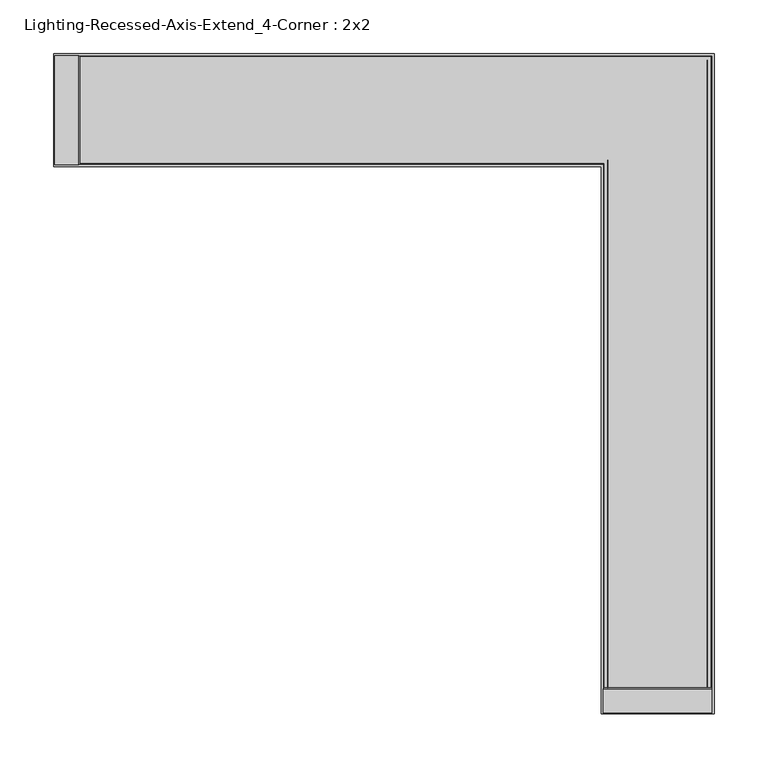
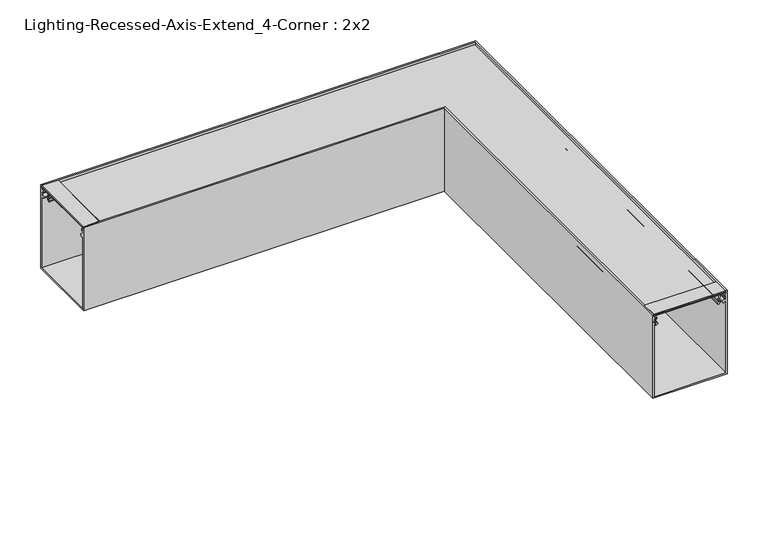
"""IFC4 building model written with IfcOpenShell, lengths in millimetres: light fixture geometry, Lighting-Recessed-Axis-Extend_4-Corner : 2x2."""

from ifc_helpers import new_model, si_unit, frame, origin, place, context, project, spatial, polyline, circle_curve, ellipse_curve, outline, extrude, source, transform, mapped, element, save
from ifc_brep_helpers import plane_surface, cylinder_surface, revolved_surface, advanced_brep


def lighting_recessed_axis_extend_4_corner_2x2_46e1a410(model_context):
    return source(origin(), model_context, "Body", "SolidModel", [
        extrude(outline(polyline([(-539.55569, -1.1017139), (-539.55569, -2.57175), (-540.34944, -2.57175), (-540.34944, -1.778), (-546.82009, -1.778), (-546.82009, -4.5842019), (-556.49749, -4.5842019), (-556.49749, -1.778), (-562.96814, -1.778), (-562.96814, -2.57175), (-563.76189, -2.57175), (-563.76189, -1.1017139), (-562.8373463, 0.0), (-540.4802337, 0.0), (-539.55569, -1.1017139)])), frame((-50.75301, 0.0, 0.0), z_axis=(1.0, 0.0, 0.0), x_axis=(0.0, 1.0, 0.0)), (0.0, 0.0, 1.0), 101.50602),
        extrude(outline(polyline([(-1.1017139, -539.09849), (0.0, -540.0230337), (0.0, -562.3801463), (-1.1017139, -563.30469), (-2.57175, -563.30469), (-2.57175, -562.51094), (-1.778, -562.51094), (-1.778, -556.04029), (-4.5842019, -556.04029), (-4.5842019, -546.36289), (-1.778, -546.36289), (-1.778, -539.89224), (-2.57175, -539.89224), (-2.57175, -539.09849), (-1.1017139, -539.09849)])), frame((0.0, -50.75301, 0.0), z_axis=(0.0, 1.0, 0.0), x_axis=(0.0, 0.0, 1.0)), (0.0, 0.0, 1.0), 101.50602),
        advanced_brep(
        [(-556.81499, -44.9537362, -4.8895009), (-556.81499, -45.2924281, -11.3521263), (-556.81499, -46.1628914, -17.9580097), (-556.81499, -45.3476056, -19.4557425), (-556.81499, -43.9929166, -20.6551445), (-556.81499, -44.973818, -21.9831631), (-556.81499, -46.5470052, -20.5903092), (-556.81499, -47.8918907, -16.75974), (-556.81499, -46.2564041, -12.7205342), (-556.81499, -46.9204959, -10.8713211), (-556.81499, -46.607002, -4.8895009), (-556.81499, -49.61001, -4.8895009), (-556.81499, -49.61001, -2.9845), (-556.81499, 49.61001, -2.9845), (-556.81499, 49.61001, -4.8895009), (-556.81499, 46.607002, -4.8895009), (-556.81499, 46.9204959, -10.8713211), (-556.81499, 46.2564041, -12.7205342), (-556.81499, 47.8918907, -16.75974), (-556.81499, 46.5470052, -20.5903092), (-556.81499, 44.973818, -21.9831631), (-556.81499, 43.9929166, -20.6551445), (-556.81499, 45.3476056, -19.4557425), (-556.81499, 46.1628914, -17.9580097), (-556.81499, 45.2924281, -11.3521263), (-556.81499, 44.9537362, -4.8895009), (-44.9537362, -556.81499, -4.8895009), (44.9537362, -556.81499, -4.8895009), (45.2924281, -556.81499, -11.3521263), (46.1628914, -556.81499, -17.9580097), (45.3476056, -556.81499, -19.4557425), (43.9929166, -556.81499, -20.6551445), (44.973818, -556.81499, -21.9831631), (46.5470052, -556.81499, -20.5903092), (47.8918907, -556.81499, -16.75974), (46.2564041, -556.81499, -12.7205342), (46.9204959, -556.81499, -10.8713211), (46.607002, -556.81499, -4.8895009), (49.61001, -556.81499, -4.8895009), (49.61001, -556.81499, -2.9845), (-49.61001, -556.81499, -2.9845), (-49.61001, -556.81499, -4.8895009), (-46.607002, -556.81499, -4.8895009), (-46.9204959, -556.81499, -10.8713211), (-46.2564041, -556.81499, -12.7205342), (-47.8918907, -556.81499, -16.75974), (-46.5470052, -556.81499, -20.5903092), (-44.973818, -556.81499, -21.9831631), (-43.9929166, -556.81499, -20.6551445), (-45.3476056, -556.81499, -19.4557425), (-46.1628914, -556.81499, -17.9580097), (-45.2924281, -556.81499, -11.3521263), (-44.9537362, -44.9537362, -4.8895009), (-45.2924281, -45.2924281, -11.3521263), (-46.1628914, -46.1628914, -17.9580097), (-45.3476056, -45.3476056, -19.4557425), (-43.9929166, -43.9929166, -20.6551445), (-44.973818, -44.973818, -21.9831631), (-46.5470052, -46.5470052, -20.5903092), (-47.8918907, -47.8918907, -16.75974), (-46.2564041, -46.2564041, -12.7205342), (-46.9204959, -46.9204959, -10.8713211), (-46.607002, -46.607002, -4.8895009), (-49.61001, -49.61001, -4.8895009), (-49.61001, -49.61001, -2.9845), (49.61001, 49.61001, -2.9845), (44.9537362, 44.9537362, -4.8895009), (49.61001, 49.61001, -4.8895009), (46.607002, 46.607002, -4.8895009), (46.9204959, 46.9204959, -10.8713211), (46.2564041, 46.2564041, -12.7205342), (47.8918907, 47.8918907, -16.75974), (46.5470052, 46.5470052, -20.5903092), (44.973818, 44.973818, -21.9831631), (43.9929166, 43.9929166, -20.6551445), (45.3476056, 45.3476056, -19.4557425), (46.1628914, 46.1628914, -17.9580097), (45.2924281, 45.2924281, -11.3521263)],
        [
            (0, 1),
            (1, 2, circle_curve(frame((-556.81499, -48.03521, -14.351), z_axis=(-1.0, 0.0, 0.0), x_axis=(0.0, 0.6748971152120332, 0.7379118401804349)), 4.064)),
            (2, 3, circle_curve(frame((-556.81499, -42.930354, -17.1691543), z_axis=(1.0, 0.0, 0.0), x_axis=(0.0, -0.9714904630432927, -0.23707863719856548)), 3.3274001)),
            (3, 4, circle_curve(frame((-556.81499, -37.9113277, -12.4214292), z_axis=(1.0, 0.0, 0.0), x_axis=(0.0, -0.7264901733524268, -0.68717685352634)), 10.2362001)),
            (4, 5, circle_curve(frame((-556.81499, -44.4833673, -21.3191538), z_axis=(-1.0, 0.0, 0.0), x_axis=(0.0, 0.5941256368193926, 0.8043722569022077)), 0.8255)),
            (5, 6, circle_curve(frame((-556.81499, -37.9113269, -12.4214283), z_axis=(-1.0, 0.0, 0.0), x_axis=(0.0, -0.594125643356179, -0.8043722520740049)), 11.8872013)),
            (6, 7, circle_curve(frame((-556.81499, -42.930354, -17.1691543), z_axis=(-1.0, 0.0, 0.0), x_axis=(0.0, -0.7264685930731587, -0.6871996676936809)), 4.9784001)),
            (7, 8, circle_curve(frame((-556.81499, -48.03521, -14.351), z_axis=(1.0, 0.0, 0.0), x_axis=(0.0, 0.05939464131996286, -0.9982345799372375)), 2.413)),
            (8, 9, circle_curve(frame((-556.81499, -44.3839769, -11.0042544), z_axis=(-1.0, 0.0, 0.0), x_axis=(0.0, -0.7371760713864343, -0.675700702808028)), 2.54)),
            (9, 10),
            (10, 11),
            (11, 12),
            (12, 13),
            (13, 14),
            (14, 15),
            (15, 16),
            (16, 17, circle_curve(frame((-556.81499, 44.3839769, -11.0042544), z_axis=(-1.0, 0.0, 0.0), x_axis=(0.0, 0.7371760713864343, -0.675700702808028)), 2.54)),
            (17, 18, circle_curve(frame((-556.81499, 48.03521, -14.351), z_axis=(1.0, 0.0, 0.0), x_axis=(0.0, -0.05939464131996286, -0.9982345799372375)), 2.413)),
            (18, 19, circle_curve(frame((-556.81499, 42.930354, -17.1691543), z_axis=(-1.0, 0.0, 0.0), x_axis=(0.0, 0.7264685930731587, -0.6871996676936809)), 4.9784001)),
            (19, 20, circle_curve(frame((-556.81499, 37.9113269, -12.4214283), z_axis=(-1.0, 0.0, 0.0), x_axis=(0.0, 0.594125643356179, -0.8043722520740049)), 11.8872013)),
            (20, 21, circle_curve(frame((-556.81499, 44.4833673, -21.3191538), z_axis=(-1.0, 0.0, 0.0), x_axis=(0.0, -0.5941256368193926, 0.8043722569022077)), 0.8255)),
            (21, 22, circle_curve(frame((-556.81499, 37.9113277, -12.4214292), z_axis=(1.0, 0.0, 0.0), x_axis=(0.0, 0.7264901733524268, -0.68717685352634)), 10.2362001)),
            (22, 23, circle_curve(frame((-556.81499, 42.930354, -17.1691543), z_axis=(1.0, 0.0, 0.0), x_axis=(0.0, 0.9714904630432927, -0.23707863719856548)), 3.3274001)),
            (23, 24, circle_curve(frame((-556.81499, 48.03521, -14.351), z_axis=(-1.0, 0.0, 0.0), x_axis=(0.0, -0.6748971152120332, 0.7379118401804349)), 4.064)),
            (24, 25),
            (25, 0),
            (26, 27),
            (27, 28),
            (28, 29, circle_curve(frame((48.03521, -556.81499, -14.351), z_axis=(0.0, -1.0, 0.0), x_axis=(-0.6748971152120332, 0.0, 0.7379118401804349)), 4.064)),
            (29, 30, circle_curve(frame((42.930354, -556.81499, -17.1691543), z_axis=(0.0, 1.0, 0.0), x_axis=(0.9714904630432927, 0.0, -0.23707863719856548)), 3.3274001)),
            (30, 31, circle_curve(frame((37.9113277, -556.81499, -12.4214292), z_axis=(0.0, 1.0, 0.0), x_axis=(0.7264901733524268, 0.0, -0.68717685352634)), 10.2362001)),
            (31, 32, circle_curve(frame((44.4833673, -556.81499, -21.3191538), z_axis=(0.0, -1.0, 0.0), x_axis=(-0.5941256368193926, 0.0, 0.8043722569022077)), 0.8255)),
            (32, 33, circle_curve(frame((37.9113269, -556.81499, -12.4214283), z_axis=(0.0, -1.0, 0.0), x_axis=(0.594125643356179, 0.0, -0.8043722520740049)), 11.8872013)),
            (33, 34, circle_curve(frame((42.930354, -556.81499, -17.1691543), z_axis=(0.0, -1.0, 0.0), x_axis=(0.7264685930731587, 0.0, -0.6871996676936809)), 4.9784001)),
            (34, 35, circle_curve(frame((48.03521, -556.81499, -14.351), z_axis=(0.0, 1.0, 0.0), x_axis=(-0.05939464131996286, 0.0, -0.9982345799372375)), 2.413)),
            (35, 36, circle_curve(frame((44.3839769, -556.81499, -11.0042544), z_axis=(0.0, -1.0, 0.0), x_axis=(0.7371760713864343, 0.0, -0.675700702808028)), 2.54)),
            (36, 37),
            (37, 38),
            (38, 39),
            (39, 40),
            (40, 41),
            (41, 42),
            (42, 43),
            (43, 44, circle_curve(frame((-44.3839769, -556.81499, -11.0042544), z_axis=(0.0, -1.0, 0.0), x_axis=(-0.7371760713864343, 0.0, -0.675700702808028)), 2.54)),
            (44, 45, circle_curve(frame((-48.03521, -556.81499, -14.351), z_axis=(0.0, 1.0, 0.0), x_axis=(0.05939464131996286, 0.0, -0.9982345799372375)), 2.413)),
            (45, 46, circle_curve(frame((-42.930354, -556.81499, -17.1691543), z_axis=(0.0, -1.0, 0.0), x_axis=(-0.7264685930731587, 0.0, -0.6871996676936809)), 4.9784001)),
            (46, 47, circle_curve(frame((-37.9113269, -556.81499, -12.4214283), z_axis=(0.0, -1.0, 0.0), x_axis=(-0.594125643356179, 0.0, -0.8043722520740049)), 11.8872013)),
            (47, 48, circle_curve(frame((-44.4833673, -556.81499, -21.3191538), z_axis=(0.0, -1.0, 0.0), x_axis=(0.5941256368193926, 0.0, 0.8043722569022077)), 0.8255)),
            (48, 49, circle_curve(frame((-37.9113277, -556.81499, -12.4214292), z_axis=(0.0, 1.0, 0.0), x_axis=(-0.7264901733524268, 0.0, -0.68717685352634)), 10.2362001)),
            (49, 50, circle_curve(frame((-42.930354, -556.81499, -17.1691543), z_axis=(0.0, 1.0, 0.0), x_axis=(-0.9714904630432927, 0.0, -0.23707863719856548)), 3.3274001)),
            (50, 51, circle_curve(frame((-48.03521, -556.81499, -14.351), z_axis=(0.0, -1.0, 0.0), x_axis=(0.6748971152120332, 0.0, 0.7379118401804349)), 4.064)),
            (51, 26),
            (0, 52),
            (52, 53),
            (53, 1),
            (53, 54, ellipse_curve(frame((-48.03521, -48.03521, -14.351), z_axis=(-0.7071067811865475, 0.7071067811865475, 0.0), x_axis=(-0.7071067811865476, -0.7071067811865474, 0.0)), 5.7473639, 4.064)),
            (54, 2),
            (54, 55, ellipse_curve(frame((-42.930354, -42.930354, -17.1691543), z_axis=(0.7071067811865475, -0.7071067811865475, 0.0), x_axis=(0.7071067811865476, 0.7071067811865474, 0.0)), 4.7056543, 3.3274001)),
            (55, 3),
            (55, 56, ellipse_curve(frame((-37.9113277, -37.9113277, -12.4214292), z_axis=(0.7071067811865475, -0.7071067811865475, 0.0), x_axis=(0.7071067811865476, 0.7071067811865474, 0.0)), 14.476173, 10.2362001)),
            (56, 4),
            (56, 57, ellipse_curve(frame((-44.4833673, -44.4833673, -21.3191538), z_axis=(-0.7071067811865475, 0.7071067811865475, 0.0), x_axis=(-0.7071067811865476, -0.7071067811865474, 0.0)), 1.1674333, 0.8255)),
            (57, 5),
            (57, 58, ellipse_curve(frame((-37.9113269, -37.9113269, -12.4214283), z_axis=(-0.7071067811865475, 0.7071067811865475, 0.0), x_axis=(-0.7071067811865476, -0.7071067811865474, 0.0)), 16.8110412, 11.8872013)),
            (58, 6),
            (58, 59, ellipse_curve(frame((-42.930354, -42.930354, -17.1691543), z_axis=(-0.7071067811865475, 0.7071067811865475, 0.0), x_axis=(-0.7071067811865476, -0.7071067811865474, 0.0)), 7.0405209, 4.9784001)),
            (59, 7),
            (59, 60, ellipse_curve(frame((-48.03521, -48.03521, -14.351), z_axis=(0.7071067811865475, -0.7071067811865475, 0.0), x_axis=(0.7071067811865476, 0.7071067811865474, 0.0)), 3.4124973, 2.413)),
            (60, 8),
            (60, 61, ellipse_curve(frame((-44.3839769, -44.3839769, -11.0042544), z_axis=(-0.7071067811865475, 0.7071067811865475, 0.0), x_axis=(-0.7071067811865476, -0.7071067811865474, 0.0)), 3.5921024, 2.54)),
            (61, 9),
            (61, 62),
            (62, 10),
            (62, 42),
            (41, 63),
            (63, 11),
            (63, 64),
            (64, 12),
            (64, 40),
            (39, 65),
            (65, 13),
            (25, 66),
            (66, 27),
            (26, 52),
            (65, 67),
            (67, 14),
            (67, 38),
            (37, 68),
            (68, 15),
            (68, 69),
            (69, 16),
            (69, 70, ellipse_curve(frame((44.3839769, 44.3839769, -11.0042544), z_axis=(-0.7071067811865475, 0.7071067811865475, 0.0), x_axis=(-0.7071067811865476, -0.7071067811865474, 0.0)), 3.5921024, 2.54)),
            (70, 17),
            (70, 71, ellipse_curve(frame((48.03521, 48.03521, -14.351), z_axis=(0.7071067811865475, -0.7071067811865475, 0.0), x_axis=(0.7071067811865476, 0.7071067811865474, 0.0)), 3.4124973, 2.413)),
            (71, 18),
            (71, 72, ellipse_curve(frame((42.930354, 42.930354, -17.1691543), z_axis=(-0.7071067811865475, 0.7071067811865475, 0.0), x_axis=(-0.7071067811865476, -0.7071067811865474, 0.0)), 7.0405209, 4.9784001)),
            (72, 19),
            (72, 73, ellipse_curve(frame((37.9113269, 37.9113269, -12.4214283), z_axis=(-0.7071067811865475, 0.7071067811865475, 0.0), x_axis=(-0.7071067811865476, -0.7071067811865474, 0.0)), 16.8110412, 11.8872013)),
            (73, 20),
            (73, 74, ellipse_curve(frame((44.4833673, 44.4833673, -21.3191538), z_axis=(-0.7071067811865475, 0.7071067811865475, 0.0), x_axis=(-0.7071067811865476, -0.7071067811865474, 0.0)), 1.1674333, 0.8255)),
            (74, 21),
            (74, 75, ellipse_curve(frame((37.9113277, 37.9113277, -12.4214292), z_axis=(0.7071067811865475, -0.7071067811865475, 0.0), x_axis=(0.7071067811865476, 0.7071067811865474, 0.0)), 14.476173, 10.2362001)),
            (75, 22),
            (75, 76, ellipse_curve(frame((42.930354, 42.930354, -17.1691543), z_axis=(0.7071067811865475, -0.7071067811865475, 0.0), x_axis=(0.7071067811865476, 0.7071067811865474, 0.0)), 4.7056543, 3.3274001)),
            (76, 23),
            (76, 77, ellipse_curve(frame((48.03521, 48.03521, -14.351), z_axis=(-0.7071067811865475, 0.7071067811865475, 0.0), x_axis=(-0.7071067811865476, -0.7071067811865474, 0.0)), 5.7473639, 4.064)),
            (77, 24),
            (77, 66),
            (51, 53),
            (50, 54),
            (49, 55),
            (48, 56),
            (47, 57),
            (46, 58),
            (45, 59),
            (44, 60),
            (43, 61),
            (36, 69),
            (35, 70),
            (34, 71),
            (33, 72),
            (32, 73),
            (31, 74),
            (30, 75),
            (29, 76),
            (28, 77),
        ],
        [
            plane_surface(frame((-556.81499, 0.0, -124.7775), z_axis=(-1.0, 0.0, 0.0), x_axis=(0.0, 0.0, 1.0))),
            plane_surface(frame((0.0, -556.81499, -124.7775), z_axis=(0.0, -1.0, 0.0), x_axis=(0.0, 0.0, 1.0))),
            plane_surface(frame((-556.81499, -44.9537362, -4.8895009), z_axis=(0.0, 0.9986295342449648, -0.05233596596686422), x_axis=(1.0, 0.0, 0.0))),
            cylinder_surface(frame((-556.81499, -48.03521, -14.351), z_axis=(-1.0, 0.0, 0.0), x_axis=(0.0, 0.6748971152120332, 0.7379118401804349)), 4.064),
            revolved_surface(polyline([(-39.6029539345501, -46.1628914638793, -17.95800978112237), (-556.81499, -46.1628914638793, -17.95800978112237)]), (-556.81499, -42.930354, -17.1691543), (1.0000000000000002, 0.0, 0.0)),
            revolved_surface(polyline([(-27.67512760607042, -45.34782648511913, -19.455508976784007), (-556.81499, -45.34782648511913, -19.455508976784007)]), (-556.81499, -37.9113277, -12.4214292), (1.0, 0.0, 0.0)),
            cylinder_surface(frame((-556.81499, -44.4833673, -21.3191538), z_axis=(-1.0, 0.0, 0.0), x_axis=(0.0, 0.5941256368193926, 0.8043722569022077)), 0.8255),
            cylinder_surface(frame((-556.81499, -37.9113269, -12.4214283), z_axis=(-1.0, 0.0, 0.0), x_axis=(0.0, -0.594125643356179, -0.8043722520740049)), 11.8872013),
            cylinder_surface(frame((-556.81499, -42.930354, -17.1691543), z_axis=(-1.0, 0.0, 0.0), x_axis=(0.0, -0.7264685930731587, -0.6871996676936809)), 4.9784001),
            revolved_surface(polyline([(-45.62221001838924, -47.89189073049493, -16.759740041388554), (-556.81499, -47.89189073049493, -16.759740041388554)]), (-556.81499, -48.03521, -14.351), (1.0, 0.0, 0.0)),
            cylinder_surface(frame((-556.81499, -44.3839769, -11.0042544), z_axis=(-1.0, 0.0, 0.0), x_axis=(0.0, -0.7371760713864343, -0.675700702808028)), 2.54),
            plane_surface(frame((-556.81499, -46.9204959, -10.8713211), z_axis=(0.0, -0.9986295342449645, 0.05233596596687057), x_axis=(1.0, 0.0, 0.0))),
            plane_surface(frame((-556.81499, -46.607002, -4.8895009), z_axis=(0.0, 0.0, -1.0), x_axis=(1.0, 0.0, 0.0))),
            plane_surface(frame((-556.81499, -49.61001, -4.8895009), z_axis=(0.0, -1.0, 0.0), x_axis=(1.0, 0.0, 0.0))),
            plane_surface(frame((-556.81499, -49.61001, -2.9845), z_axis=(0.0, 0.0, 1.0), x_axis=(1.0, 0.0, 0.0))),
            plane_surface(frame((-556.81499, 44.9537362, -4.8895009), z_axis=(0.0, 0.0, -1.0), x_axis=(1.0, 0.0, 0.0))),
            plane_surface(frame((-556.81499, 49.61001, -2.9845), z_axis=(0.0, 1.0, 0.0), x_axis=(1.0, 0.0, 0.0))),
            plane_surface(frame((-556.81499, 49.61001, -4.8895009), z_axis=(0.0, 0.0, -1.0), x_axis=(1.0, 0.0, 0.0))),
            plane_surface(frame((-556.81499, 46.607002, -4.8895009), z_axis=(0.0, 0.9986295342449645, 0.05233596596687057), x_axis=(1.0, 0.0, 0.0))),
            cylinder_surface(frame((-556.81499, 44.3839769, -11.0042544), z_axis=(-1.0, 0.0, 0.0), x_axis=(0.0, 0.7371760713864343, -0.675700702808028)), 2.54),
            revolved_surface(polyline([(50.44820998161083, 47.89189073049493, -16.759740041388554), (-556.81499, 47.89189073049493, -16.759740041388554)]), (-556.81499, 48.03521, -14.351), (1.0, 0.0, 0.0)),
            cylinder_surface(frame((-556.81499, 42.930354, -17.1691543), z_axis=(-1.0, 0.0, 0.0), x_axis=(0.0, 0.7264685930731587, -0.6871996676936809)), 4.9784001),
            cylinder_surface(frame((-556.81499, 37.9113269, -12.4214283), z_axis=(-1.0, 0.0, 0.0), x_axis=(0.0, 0.594125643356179, -0.8043722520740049)), 11.8872013),
            cylinder_surface(frame((-556.81499, 44.4833673, -21.3191538), z_axis=(-1.0, 0.0, 0.0), x_axis=(0.0, -0.5941256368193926, 0.8043722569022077)), 0.8255),
            revolved_surface(polyline([(48.14752779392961, 45.34782648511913, -19.455508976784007), (-556.81499, 45.34782648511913, -19.455508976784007)]), (-556.81499, 37.9113277, -12.4214292), (1.0, 0.0, 0.0)),
            revolved_surface(polyline([(46.25775406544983, 46.1628914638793, -17.95800978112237), (-556.81499, 46.1628914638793, -17.95800978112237)]), (-556.81499, 42.930354, -17.1691543), (1.0000000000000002, 0.0, 0.0)),
            cylinder_surface(frame((-556.81499, 48.03521, -14.351), z_axis=(-1.0, 0.0, 0.0), x_axis=(0.0, -0.6748971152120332, 0.7379118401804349)), 4.064),
            plane_surface(frame((-556.81499, 45.2924281, -11.3521263), z_axis=(0.0, -0.9986295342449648, -0.05233596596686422), x_axis=(1.0, 0.0, 0.0))),
            plane_surface(frame((-44.9537362, -44.9537362, -4.8895009), z_axis=(0.9986295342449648, 0.0, -0.05233596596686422), x_axis=(0.0, -1.0, 0.0))),
            cylinder_surface(frame((-48.03521, 0.0, -14.351), z_axis=(0.0, 1.0, 0.0), x_axis=(0.6748971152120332, 0.0, 0.7379118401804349)), 4.064),
            revolved_surface(polyline([(-46.1628914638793, -556.8149900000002, -17.95800978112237), (-46.1628914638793, -39.60295393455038, -17.95800978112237)]), (-42.930354, 0.0, -17.1691543), (0.0, -1.0000000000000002, 0.0)),
            revolved_surface(polyline([(-45.34782648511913, -556.81499, -19.455508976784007), (-45.34782648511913, -27.675127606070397, -19.455508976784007)]), (-37.9113277, 0.0, -12.4214292), (0.0, -1.0, 0.0)),
            cylinder_surface(frame((-44.4833673, 0.0, -21.3191538), z_axis=(0.0, 1.0, 0.0), x_axis=(0.5941256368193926, 0.0, 0.8043722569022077)), 0.8255),
            cylinder_surface(frame((-37.9113269, 0.0, -12.4214283), z_axis=(0.0, 1.0, 0.0), x_axis=(-0.594125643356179, 0.0, -0.8043722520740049)), 11.8872013),
            cylinder_surface(frame((-42.930354, 0.0, -17.1691543), z_axis=(0.0, 1.0, 0.0), x_axis=(-0.7264685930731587, 0.0, -0.6871996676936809)), 4.9784001),
            revolved_surface(polyline([(-47.89189073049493, -556.81499, -16.759740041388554), (-47.89189073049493, -45.62221001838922, -16.759740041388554)]), (-48.03521, 0.0, -14.351), (0.0, -1.0, 0.0)),
            cylinder_surface(frame((-44.3839769, 0.0, -11.0042544), z_axis=(0.0, 1.0, 0.0), x_axis=(-0.7371760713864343, 0.0, -0.675700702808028)), 2.54),
            plane_surface(frame((-46.9204959, -46.9204959, -10.8713211), z_axis=(-0.9986295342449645, 0.0, 0.05233596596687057), x_axis=(0.0, -1.0, 0.0))),
            plane_surface(frame((-49.61001, -49.61001, -4.8895009), z_axis=(-1.0, 0.0, 0.0), x_axis=(0.0, -1.0, 0.0))),
            plane_surface(frame((49.61001, 49.61001, -2.9845), z_axis=(1.0, 0.0, 0.0), x_axis=(0.0, -1.0, 0.0))),
            plane_surface(frame((46.607002, 46.607002, -4.8895009), z_axis=(0.9986295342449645, 0.0, 0.05233596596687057), x_axis=(0.0, -1.0, 0.0))),
            cylinder_surface(frame((44.3839769, 0.0, -11.0042544), z_axis=(0.0, 1.0, 0.0), x_axis=(0.7371760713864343, 0.0, -0.675700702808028)), 2.54),
            revolved_surface(polyline([(47.89189073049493, -556.81499, -16.759740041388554), (47.89189073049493, 50.44820998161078, -16.759740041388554)]), (48.03521, 0.0, -14.351), (0.0, -1.0, 0.0)),
            cylinder_surface(frame((42.930354, 0.0, -17.1691543), z_axis=(0.0, 1.0, 0.0), x_axis=(0.7264685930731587, 0.0, -0.6871996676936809)), 4.9784001),
            cylinder_surface(frame((37.9113269, 0.0, -12.4214283), z_axis=(0.0, 1.0, 0.0), x_axis=(0.594125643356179, 0.0, -0.8043722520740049)), 11.8872013),
            cylinder_surface(frame((44.4833673, 0.0, -21.3191538), z_axis=(0.0, 1.0, 0.0), x_axis=(-0.5941256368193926, 0.0, 0.8043722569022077)), 0.8255),
            revolved_surface(polyline([(45.34782648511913, -556.81499, -19.455508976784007), (45.34782648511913, 48.147527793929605, -19.455508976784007)]), (37.9113277, 0.0, -12.4214292), (0.0, -1.0, 0.0)),
            revolved_surface(polyline([(46.1628914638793, -556.8149900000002, -17.95800978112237), (46.1628914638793, 46.25775406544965, -17.95800978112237)]), (42.930354, 0.0, -17.1691543), (0.0, -1.0000000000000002, 0.0)),
            cylinder_surface(frame((48.03521, 0.0, -14.351), z_axis=(0.0, 1.0, 0.0), x_axis=(-0.6748971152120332, 0.0, 0.7379118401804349)), 4.064),
            plane_surface(frame((45.2924281, 45.2924281, -11.3521263), z_axis=(-0.9986295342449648, 0.0, -0.05233596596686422), x_axis=(0.0, -1.0, 0.0))),
        ],
        [
            (0, [[1, 2, 3, 4, 5, 6, 7, 8, 9, 10, 11, 12, 13, 14, 15, 16, 17, 18, 19, 20, 21, 22, 23, 24, 25, 26]]),
            (1, [[27, 28, 29, 30, 31, 32, 33, 34, 35, 36, 37, 38, 39, 40, 41, 42, 43, 44, 45, 46, 47, 48, 49, 50, 51, 52]]),
            (2, [[-1, 53, 54, 55]]),
            (3, [[-2, -55, 56, 57]]),
            (4, [[-3, -57, 58, 59]]),
            (5, [[-4, -59, 60, 61]]),
            (6, [[-5, -61, 62, 63]]),
            (7, [[-6, -63, 64, 65]]),
            (8, [[-7, -65, 66, 67]]),
            (9, [[-8, -67, 68, 69]]),
            (10, [[-9, -69, 70, 71]]),
            (11, [[-10, -71, 72, 73]]),
            (12, [[-11, -73, 74, -42, 75, 76]]),
            (13, [[-12, -76, 77, 78]]),
            (14, [[-13, -78, 79, -40, 80, 81]]),
            (15, [[-26, 82, 83, -27, 84, -53]]),
            (16, [[-14, -81, 85, 86]]),
            (17, [[-15, -86, 87, -38, 88, 89]]),
            (18, [[-16, -89, 90, 91]]),
            (19, [[-17, -91, 92, 93]]),
            (20, [[-18, -93, 94, 95]]),
            (21, [[-19, -95, 96, 97]]),
            (22, [[-20, -97, 98, 99]]),
            (23, [[-21, -99, 100, 101]]),
            (24, [[-22, -101, 102, 103]]),
            (25, [[-23, -103, 104, 105]]),
            (26, [[-24, -105, 106, 107]]),
            (27, [[-25, -107, 108, -82]]),
            (28, [[-54, -84, -52, 109]]),
            (29, [[-56, -109, -51, 110]]),
            (30, [[-58, -110, -50, 111]]),
            (31, [[-60, -111, -49, 112]]),
            (32, [[-62, -112, -48, 113]]),
            (33, [[-64, -113, -47, 114]]),
            (34, [[-66, -114, -46, 115]]),
            (35, [[-68, -115, -45, 116]]),
            (36, [[-70, -116, -44, 117]]),
            (37, [[-72, -117, -43, -74]]),
            (38, [[-77, -75, -41, -79]]),
            (39, [[-85, -80, -39, -87]]),
            (40, [[-90, -88, -37, 118]]),
            (41, [[-92, -118, -36, 119]]),
            (42, [[-94, -119, -35, 120]]),
            (43, [[-96, -120, -34, 121]]),
            (44, [[-98, -121, -33, 122]]),
            (45, [[-100, -122, -32, 123]]),
            (46, [[-102, -123, -31, 124]]),
            (47, [[-104, -124, -30, 125]]),
            (48, [[-106, -125, -29, 126]]),
            (49, [[-108, -126, -28, -83]]),
        ],
    ),
        advanced_brep(
        [(-563.4262619, -50.75301, -14.9098), (-563.4262619, -50.75301, -122.7455), (-563.4262619, 50.75301, -122.7455), (-563.4262619, 50.75301, -14.9098), (-563.4262619, 48.9135897, -14.9098), (-563.4262619, 46.6540646, -16.2143374), (-563.4262619, 45.4706616, -13.9591318), (-563.4262619, 48.84801, -11.1252), (-563.4262619, 48.84801, -12.8778), (-563.4262619, 50.75301, -12.8778), (-563.4262619, 50.75301, -6.35), (-563.4262619, 48.84801, -6.35), (-563.4262619, 48.84801, -7.874), (-563.4262619, 47.19701, -7.7874748), (-563.4262619, 47.19701, -5.08), (-563.4262619, 50.75301, -5.08), (-563.4262619, 50.75301, 0.0), (-563.4262619, 52.78501, 0.0), (-563.4262619, 52.78501, -124.7775), (-563.4262619, -52.78501, -124.7775), (-563.4262619, -52.78501, 0.0), (-563.4262619, -50.75301, 0.0), (-563.4262619, -50.75301, -5.08), (-563.4262619, -47.19701, -5.08), (-563.4262619, -47.19701, -7.7874748), (-563.4262619, -48.84801, -7.874), (-563.4262619, -48.84801, -6.35), (-563.4262619, -50.75301, -6.35), (-563.4262619, -50.75301, -12.8778), (-563.4262619, -48.84801, -12.8778), (-563.4262619, -48.84801, -11.1252), (-563.4262619, -45.4706616, -13.9591318), (-563.4262619, -46.6540646, -16.2143374), (-563.4262619, -48.9135897, -14.9098), (-50.4173819, -563.76189, -14.9098), (-48.5779616, -563.76189, -14.9098), (-46.3184365, -563.76189, -16.2143374), (-45.1350335, -563.76189, -13.9591318), (-48.5123819, -563.76189, -11.1252), (-48.5123819, -563.76189, -12.8778), (-50.4173819, -563.76189, -12.8778), (-50.4173819, -563.76189, -6.35), (-48.5123819, -563.76189, -6.35), (-48.5123819, -563.76189, -7.874), (-46.8613819, -563.76189, -7.7874748), (-46.8613819, -563.76189, -5.08), (-50.4173819, -563.76189, -5.08), (-50.4173819, -563.76189, 0.0), (-52.4493819, -563.76189, 0.0), (-52.4493819, -563.76189, -124.7775), (53.1206381, -563.76189, -124.7775), (53.1206381, -563.76189, 0.0), (51.0886381, -563.76189, 0.0), (51.0886381, -563.76189, -5.08), (47.5326381, -563.76189, -5.08), (47.5326381, -563.76189, -7.7874748), (49.1836381, -563.76189, -7.874), (49.1836381, -563.76189, -6.35), (51.0886381, -563.76189, -6.35), (51.0886381, -563.76189, -12.8778), (49.1836381, -563.76189, -12.8778), (49.1836381, -563.76189, -11.1252), (45.8062898, -563.76189, -13.9591318), (46.9896928, -563.76189, -16.2143374), (49.2492179, -563.76189, -14.9098), (51.0886381, -563.76189, -14.9098), (51.0886381, -563.76189, -122.7455), (-50.4173819, -563.76189, -122.7455), (-50.4173819, -50.75301, -14.9098), (-50.4173819, -50.75301, -122.7455), (51.0886381, 50.75301, -122.7455), (53.1206381, 52.78501, -124.7775), (-52.4493819, -52.78501, -124.7775), (-52.4493819, -52.78501, 0.0), (-50.4173819, -50.75301, 0.0), (-50.4173819, -50.75301, -5.08), (-46.8613819, -47.19701, -5.08), (-46.8613819, -47.19701, -7.7874748), (-48.5123819, -48.84801, -7.874), (-48.5123819, -48.84801, -6.35), (-50.4173819, -50.75301, -6.35), (-50.4173819, -50.75301, -12.8778), (-48.5123819, -48.84801, -12.8778), (-48.5123819, -48.84801, -11.1252), (-45.1350335, -45.4706616, -13.9591318), (-46.3184365, -46.6540646, -16.2143374), (-48.5779616, -48.9135897, -14.9098), (51.0886381, 50.75301, -14.9098), (49.2492179, 48.9135897, -14.9098), (46.9896928, 46.6540646, -16.2143374), (45.8062898, 45.4706616, -13.9591318), (49.1836381, 48.84801, -11.1252), (49.1836381, 48.84801, -12.8778), (51.0886381, 50.75301, -12.8778), (51.0886381, 50.75301, -6.35), (49.1836381, 48.84801, -6.35), (49.1836381, 48.84801, -7.874), (47.5326381, 47.19701, -7.7874748), (47.5326381, 47.19701, -5.08), (51.0886381, 50.75301, -5.08), (51.0886381, 50.75301, 0.0), (53.1206381, 52.78501, 0.0)],
        [
            (0, 1),
            (1, 2),
            (2, 3),
            (3, 4),
            (4, 5, circle_curve(frame((-563.4262619, 47.4072397, -14.9098), z_axis=(-1.0, 0.0, 0.0), x_axis=(0.0, 1.0, 0.0)), 1.5063501)),
            (5, 6, circle_curve(frame((-563.4262619, 47.8452221, -14.1511921), z_axis=(-1.0, 0.0, 0.0), x_axis=(0.0, -0.5000000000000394, -0.866025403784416)), 2.382315)),
            (6, 7),
            (7, 8),
            (8, 9),
            (9, 10),
            (10, 11),
            (11, 12),
            (12, 13),
            (13, 14),
            (14, 15),
            (15, 16),
            (16, 17),
            (17, 18),
            (18, 19),
            (19, 20),
            (20, 21),
            (21, 22),
            (22, 23),
            (23, 24),
            (24, 25),
            (25, 26),
            (26, 27),
            (27, 28),
            (28, 29),
            (29, 30),
            (30, 31),
            (31, 32, circle_curve(frame((-563.4262619, -47.8452221, -14.1511921), z_axis=(-1.0, 0.0, 0.0), x_axis=(0.0, 0.5000000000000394, -0.866025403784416)), 2.382315)),
            (32, 33, circle_curve(frame((-563.4262619, -47.4072397, -14.9098), z_axis=(-1.0, 0.0, 0.0), x_axis=(0.0, -1.0, 0.0)), 1.5063501)),
            (33, 0),
            (34, 35),
            (35, 36, circle_curve(frame((-47.0716115, -563.76189, -14.9098), z_axis=(0.0, -1.0, 0.0), x_axis=(-1.0, 0.0, 0.0)), 1.5063501)),
            (36, 37, circle_curve(frame((-47.509594, -563.76189, -14.1511921), z_axis=(0.0, -1.0, 0.0), x_axis=(0.5000000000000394, 0.0, -0.866025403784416)), 2.382315)),
            (37, 38),
            (38, 39),
            (39, 40),
            (40, 41),
            (41, 42),
            (42, 43),
            (43, 44),
            (44, 45),
            (45, 46),
            (46, 47),
            (47, 48),
            (48, 49),
            (49, 50),
            (50, 51),
            (51, 52),
            (52, 53),
            (53, 54),
            (54, 55),
            (55, 56),
            (56, 57),
            (57, 58),
            (58, 59),
            (59, 60),
            (60, 61),
            (61, 62),
            (62, 63, circle_curve(frame((48.1808503, -563.76189, -14.1511921), z_axis=(0.0, -1.0, 0.0), x_axis=(-0.5000000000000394, 0.0, -0.866025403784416)), 2.382315)),
            (63, 64, circle_curve(frame((47.7428678, -563.76189, -14.9098), z_axis=(0.0, -1.0, 0.0), x_axis=(1.0, 0.0, 0.0)), 1.5063501)),
            (64, 65),
            (65, 66),
            (66, 67),
            (67, 34),
            (0, 68),
            (68, 69),
            (69, 1),
            (69, 67),
            (66, 70),
            (70, 2),
            (18, 71),
            (71, 50),
            (49, 72),
            (72, 19),
            (72, 73),
            (73, 20),
            (73, 48),
            (47, 74),
            (74, 21),
            (74, 75),
            (75, 22),
            (75, 46),
            (45, 76),
            (76, 23),
            (76, 77),
            (77, 24),
            (77, 78),
            (78, 25),
            (78, 79),
            (79, 26),
            (79, 42),
            (41, 80),
            (80, 27),
            (80, 81),
            (81, 28),
            (81, 40),
            (39, 82),
            (82, 29),
            (82, 83),
            (83, 30),
            (83, 84),
            (84, 31),
            (84, 85, ellipse_curve(frame((-47.509594, -47.8452221, -14.1511921), z_axis=(-0.7071067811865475, 0.7071067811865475, 0.0), x_axis=(-0.7071067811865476, -0.7071067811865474, 0.0)), 3.3691022, 2.382315)),
            (85, 32),
            (85, 86, ellipse_curve(frame((-47.0716115, -47.4072397, -14.9098), z_axis=(-0.7071067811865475, 0.7071067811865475, 0.0), x_axis=(-0.7071067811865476, -0.7071067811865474, 0.0)), 2.1303007, 1.5063501)),
            (86, 33),
            (86, 35),
            (34, 68),
            (70, 87),
            (87, 3),
            (87, 65),
            (64, 88),
            (88, 4),
            (88, 89, ellipse_curve(frame((47.7428678, 47.4072397, -14.9098), z_axis=(-0.7071067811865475, 0.7071067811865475, 0.0), x_axis=(-0.7071067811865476, -0.7071067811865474, 0.0)), 2.1303007, 1.5063501)),
            (89, 5),
            (89, 90, ellipse_curve(frame((48.1808503, 47.8452221, -14.1511921), z_axis=(-0.7071067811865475, 0.7071067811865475, 0.0), x_axis=(-0.7071067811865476, -0.7071067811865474, 0.0)), 3.3691022, 2.382315)),
            (90, 6),
            (90, 91),
            (91, 7),
            (91, 92),
            (92, 8),
            (92, 60),
            (59, 93),
            (93, 9),
            (93, 94),
            (94, 10),
            (94, 58),
            (57, 95),
            (95, 11),
            (95, 96),
            (96, 12),
            (96, 97),
            (97, 13),
            (97, 98),
            (98, 14),
            (98, 54),
            (53, 99),
            (99, 15),
            (99, 100),
            (100, 16),
            (100, 52),
            (51, 101),
            (101, 17),
            (101, 71),
            (63, 89),
            (62, 90),
            (61, 91),
            (56, 96),
            (55, 97),
            (44, 77),
            (43, 78),
            (38, 83),
            (37, 84),
            (36, 85),
        ],
        [
            plane_surface(frame((-563.4262619, 0.0, -124.7775), z_axis=(-1.0, 0.0, 0.0), x_axis=(0.0, 0.0, 1.0))),
            plane_surface(frame((0.3356281, -563.76189, -124.7775), z_axis=(0.0, -1.0, 0.0), x_axis=(0.0, 0.0, 1.0))),
            plane_surface(frame((-563.4262619, -50.75301, -14.9098), z_axis=(0.0, 1.0, 0.0), x_axis=(1.0, 0.0, 0.0))),
            plane_surface(frame((-563.4262619, -50.75301, -122.7455), z_axis=(0.0, 0.0, 1.0), x_axis=(1.0, 0.0, 0.0))),
            plane_surface(frame((-563.4262619, 52.78501, -124.7775), z_axis=(0.0, 0.0, -1.0), x_axis=(1.0, 0.0, 0.0))),
            plane_surface(frame((-563.4262619, -52.78501, -124.7775), z_axis=(0.0, -1.0, 0.0), x_axis=(1.0, 0.0, 0.0))),
            plane_surface(frame((-563.4262619, -52.78501, 0.0), z_axis=(0.0, 0.0, 1.0), x_axis=(1.0, 0.0, 0.0))),
            plane_surface(frame((-563.4262619, -50.75301, 0.0), z_axis=(0.0, 1.0, 0.0), x_axis=(1.0, 0.0, 0.0))),
            plane_surface(frame((-563.4262619, -50.75301, -5.08), z_axis=(0.0, 0.0, 1.0), x_axis=(1.0, 0.0, 0.0))),
            plane_surface(frame((-563.4262619, -47.19701, -5.08), z_axis=(0.0, 1.0, 0.0), x_axis=(1.0, 0.0, 0.0))),
            plane_surface(frame((-563.4262619, -47.19701, -7.7874748), z_axis=(0.0, 0.052335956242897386, -0.9986295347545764), x_axis=(1.0, 0.0, 0.0))),
            plane_surface(frame((-563.4262619, -48.84801, -7.874), z_axis=(0.0, -1.0, 0.0), x_axis=(1.0, 0.0, 0.0))),
            plane_surface(frame((-563.4262619, -48.84801, -6.35), z_axis=(0.0, 0.0, -1.0), x_axis=(1.0, 0.0, 0.0))),
            plane_surface(frame((-563.4262619, -50.75301, -6.35), z_axis=(0.0, 1.0, 0.0), x_axis=(1.0, 0.0, 0.0))),
            plane_surface(frame((-563.4262619, -50.75301, -12.8778), z_axis=(0.0, 0.0, 1.0), x_axis=(1.0, 0.0, 0.0))),
            plane_surface(frame((-563.4262619, -48.84801, -12.8778), z_axis=(0.0, -1.0, 0.0), x_axis=(1.0, 0.0, 0.0))),
            plane_surface(frame((-563.4262619, -48.84801, -11.1252), z_axis=(0.0, 0.6427876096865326, 0.7660444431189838), x_axis=(1.0, 0.0, 0.0))),
            cylinder_surface(frame((-563.4262619, -47.8452221, -14.1511921), z_axis=(-1.0, 0.0, 0.0), x_axis=(0.0, 0.5000000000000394, -0.866025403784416)), 2.382315),
            cylinder_surface(frame((-563.4262619, -47.4072397, -14.9098), z_axis=(-1.0, 0.0, 0.0), x_axis=(0.0, -1.0, 0.0)), 1.5063501),
            plane_surface(frame((-563.4262619, -48.9135897, -14.9098), z_axis=(0.0, 0.0, -1.0), x_axis=(1.0, 0.0, 0.0))),
            plane_surface(frame((-563.4262619, 50.75301, -122.7455), z_axis=(0.0, -1.0, 0.0), x_axis=(1.0, 0.0, 0.0))),
            plane_surface(frame((-563.4262619, 50.75301, -14.9098), z_axis=(0.0, 0.0, -1.0), x_axis=(1.0, 0.0, 0.0))),
            cylinder_surface(frame((-563.4262619, 47.4072397, -14.9098), z_axis=(-1.0, 0.0, 0.0), x_axis=(0.0, 1.0, 0.0)), 1.5063501),
            cylinder_surface(frame((-563.4262619, 47.8452221, -14.1511921), z_axis=(-1.0, 0.0, 0.0), x_axis=(0.0, -0.5000000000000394, -0.866025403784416)), 2.382315),
            plane_surface(frame((-563.4262619, 45.4706616, -13.9591318), z_axis=(0.0, -0.6427876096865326, 0.7660444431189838), x_axis=(1.0, 0.0, 0.0))),
            plane_surface(frame((-563.4262619, 48.84801, -11.1252), z_axis=(0.0, 1.0, 0.0), x_axis=(1.0, 0.0, 0.0))),
            plane_surface(frame((-563.4262619, 48.84801, -12.8778), z_axis=(0.0, 0.0, 1.0), x_axis=(1.0, 0.0, 0.0))),
            plane_surface(frame((-563.4262619, 50.75301, -12.8778), z_axis=(0.0, -1.0, 0.0), x_axis=(1.0, 0.0, 0.0))),
            plane_surface(frame((-563.4262619, 50.75301, -6.35), z_axis=(0.0, 0.0, -1.0), x_axis=(1.0, 0.0, 0.0))),
            plane_surface(frame((-563.4262619, 48.84801, -6.35), z_axis=(0.0, 1.0, 0.0), x_axis=(1.0, 0.0, 0.0))),
            plane_surface(frame((-563.4262619, 48.84801, -7.874), z_axis=(0.0, -0.052335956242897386, -0.9986295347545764), x_axis=(1.0, 0.0, 0.0))),
            plane_surface(frame((-563.4262619, 47.19701, -7.7874748), z_axis=(0.0, -1.0, 0.0), x_axis=(1.0, 0.0, 0.0))),
            plane_surface(frame((-563.4262619, 47.19701, -5.08), z_axis=(0.0, 0.0, 1.0), x_axis=(1.0, 0.0, 0.0))),
            plane_surface(frame((-563.4262619, 50.75301, -5.08), z_axis=(0.0, -1.0, 0.0), x_axis=(1.0, 0.0, 0.0))),
            plane_surface(frame((-563.4262619, 50.75301, 0.0), z_axis=(0.0, 0.0, 1.0), x_axis=(1.0, 0.0, 0.0))),
            plane_surface(frame((-563.4262619, 52.78501, 0.0), z_axis=(0.0, 1.0, 0.0), x_axis=(1.0, 0.0, 0.0))),
            plane_surface(frame((-50.4173819, -50.75301, -14.9098), z_axis=(1.0, 0.0, 0.0), x_axis=(0.0, -1.0, 0.0))),
            plane_surface(frame((51.0886381, 50.75301, -122.7455), z_axis=(-1.0, 0.0, 0.0), x_axis=(0.0, -1.0, 0.0))),
            cylinder_surface(frame((47.7428678, 0.0, -14.9098), z_axis=(0.0, 1.0, 0.0), x_axis=(1.0, 0.0, 0.0)), 1.5063501),
            cylinder_surface(frame((48.1808503, 0.0, -14.1511921), z_axis=(0.0, 1.0, 0.0), x_axis=(-0.5000000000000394, 0.0, -0.866025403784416)), 2.382315),
            plane_surface(frame((45.8062898, 45.4706616, -13.9591318), z_axis=(-0.6427876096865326, 0.0, 0.7660444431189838), x_axis=(0.0, -1.0, 0.0))),
            plane_surface(frame((49.1836381, 48.84801, -11.1252), z_axis=(1.0, 0.0, 0.0), x_axis=(0.0, -1.0, 0.0))),
            plane_surface(frame((51.0886381, 50.75301, -12.8778), z_axis=(-1.0, 0.0, 0.0), x_axis=(0.0, -1.0, 0.0))),
            plane_surface(frame((49.1836381, 48.84801, -6.35), z_axis=(1.0, 0.0, 0.0), x_axis=(0.0, -1.0, 0.0))),
            plane_surface(frame((49.1836381, 48.84801, -7.874), z_axis=(-0.052335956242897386, 0.0, -0.9986295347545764), x_axis=(0.0, -1.0, 0.0))),
            plane_surface(frame((47.5326381, 47.19701, -7.7874748), z_axis=(-1.0, 0.0, 0.0), x_axis=(0.0, -1.0, 0.0))),
            plane_surface(frame((51.0886381, 50.75301, -5.08), z_axis=(-1.0, 0.0, 0.0), x_axis=(0.0, -1.0, 0.0))),
            plane_surface(frame((53.1206381, 52.78501, 0.0), z_axis=(1.0, 0.0, 0.0), x_axis=(0.0, -1.0, 0.0))),
            plane_surface(frame((-52.4493819, -52.78501, -124.7775), z_axis=(-1.0, 0.0, 0.0), x_axis=(0.0, -1.0, 0.0))),
            plane_surface(frame((-50.4173819, -50.75301, 0.0), z_axis=(1.0, 0.0, 0.0), x_axis=(0.0, -1.0, 0.0))),
            plane_surface(frame((-46.8613819, -47.19701, -5.08), z_axis=(1.0, 0.0, 0.0), x_axis=(0.0, -1.0, 0.0))),
            plane_surface(frame((-46.8613819, -47.19701, -7.7874748), z_axis=(0.052335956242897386, 0.0, -0.9986295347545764), x_axis=(0.0, -1.0, 0.0))),
            plane_surface(frame((-48.5123819, -48.84801, -7.874), z_axis=(-1.0, 0.0, 0.0), x_axis=(0.0, -1.0, 0.0))),
            plane_surface(frame((-50.4173819, -50.75301, -6.35), z_axis=(1.0, 0.0, 0.0), x_axis=(0.0, -1.0, 0.0))),
            plane_surface(frame((-48.5123819, -48.84801, -12.8778), z_axis=(-1.0, 0.0, 0.0), x_axis=(0.0, -1.0, 0.0))),
            plane_surface(frame((-48.5123819, -48.84801, -11.1252), z_axis=(0.6427876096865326, 0.0, 0.7660444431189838), x_axis=(0.0, -1.0, 0.0))),
            cylinder_surface(frame((-47.509594, 0.0, -14.1511921), z_axis=(0.0, 1.0, 0.0), x_axis=(0.5000000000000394, 0.0, -0.866025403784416)), 2.382315),
            cylinder_surface(frame((-47.0716115, 0.0, -14.9098), z_axis=(0.0, 1.0, 0.0), x_axis=(-1.0, 0.0, 0.0)), 1.5063501),
        ],
        [
            (0, [[1, 2, 3, 4, 5, 6, 7, 8, 9, 10, 11, 12, 13, 14, 15, 16, 17, 18, 19, 20, 21, 22, 23, 24, 25, 26, 27, 28, 29, 30, 31, 32, 33, 34]]),
            (1, [[35, 36, 37, 38, 39, 40, 41, 42, 43, 44, 45, 46, 47, 48, 49, 50, 51, 52, 53, 54, 55, 56, 57, 58, 59, 60, 61, 62, 63, 64, 65, 66, 67, 68]]),
            (2, [[-1, 69, 70, 71]]),
            (3, [[-2, -71, 72, -67, 73, 74]]),
            (4, [[-19, 75, 76, -50, 77, 78]]),
            (5, [[-20, -78, 79, 80]]),
            (6, [[-21, -80, 81, -48, 82, 83]]),
            (7, [[-22, -83, 84, 85]]),
            (8, [[-23, -85, 86, -46, 87, 88]]),
            (9, [[-24, -88, 89, 90]]),
            (10, [[-25, -90, 91, 92]]),
            (11, [[-26, -92, 93, 94]]),
            (12, [[-27, -94, 95, -42, 96, 97]]),
            (13, [[-28, -97, 98, 99]]),
            (14, [[-29, -99, 100, -40, 101, 102]]),
            (15, [[-30, -102, 103, 104]]),
            (16, [[-31, -104, 105, 106]]),
            (17, [[-32, -106, 107, 108]]),
            (18, [[-33, -108, 109, 110]]),
            (19, [[-34, -110, 111, -35, 112, -69]]),
            (20, [[-3, -74, 113, 114]]),
            (21, [[-4, -114, 115, -65, 116, 117]]),
            (22, [[-5, -117, 118, 119]]),
            (23, [[-6, -119, 120, 121]]),
            (24, [[-7, -121, 122, 123]]),
            (25, [[-8, -123, 124, 125]]),
            (26, [[-9, -125, 126, -60, 127, 128]]),
            (27, [[-10, -128, 129, 130]]),
            (28, [[-11, -130, 131, -58, 132, 133]]),
            (29, [[-12, -133, 134, 135]]),
            (30, [[-13, -135, 136, 137]]),
            (31, [[-14, -137, 138, 139]]),
            (32, [[-15, -139, 140, -54, 141, 142]]),
            (33, [[-16, -142, 143, 144]]),
            (34, [[-17, -144, 145, -52, 146, 147]]),
            (35, [[-18, -147, 148, -75]]),
            (36, [[-70, -112, -68, -72]]),
            (37, [[-113, -73, -66, -115]]),
            (38, [[-118, -116, -64, 149]]),
            (39, [[-120, -149, -63, 150]]),
            (40, [[-122, -150, -62, 151]]),
            (41, [[-124, -151, -61, -126]]),
            (42, [[-129, -127, -59, -131]]),
            (43, [[-134, -132, -57, 152]]),
            (44, [[-136, -152, -56, 153]]),
            (45, [[-138, -153, -55, -140]]),
            (46, [[-143, -141, -53, -145]]),
            (47, [[-148, -146, -51, -76]]),
            (48, [[-79, -77, -49, -81]]),
            (49, [[-84, -82, -47, -86]]),
            (50, [[-89, -87, -45, 154]]),
            (51, [[-91, -154, -44, 155]]),
            (52, [[-93, -155, -43, -95]]),
            (53, [[-98, -96, -41, -100]]),
            (54, [[-103, -101, -39, 156]]),
            (55, [[-105, -156, -38, 157]]),
            (56, [[-107, -157, -37, 158]]),
            (57, [[-109, -158, -36, -111]]),
        ],
    ),
    ])


if __name__ == "__main__":
    model = new_model("IFC4")
    model_context = context("Model", 3, world=origin())
    ifc_project = project(units=[si_unit("LENGTHUNIT", "METRE", prefix="MILLI")], contexts=[model_context])
    site = spatial("IfcSite", under=ifc_project)
    building = spatial("IfcBuilding", under=site)
    placement = place(None, origin())
    lighting_recessed_axis_extend_4_corner_2x2_shape = lighting_recessed_axis_extend_4_corner_2x2_46e1a410(model_context)
    element("IfcLightFixture", 1, ObjectType="Lighting-Recessed-Axis-Extend_4-Corner : 2x2", at=placement, inside=building, context=model_context, shape_type="MappedRepresentation", body=[
        mapped(lighting_recessed_axis_extend_4_corner_2x2_shape, transform((0.0, 0.0, 0.0), x_axis=(1.0, 0.0, 0.0), y_axis=(0.0, 1.0, 0.0), z_axis=(0.0, 0.0, 1.0))),
    ])
    save(model, "model.ifc")
